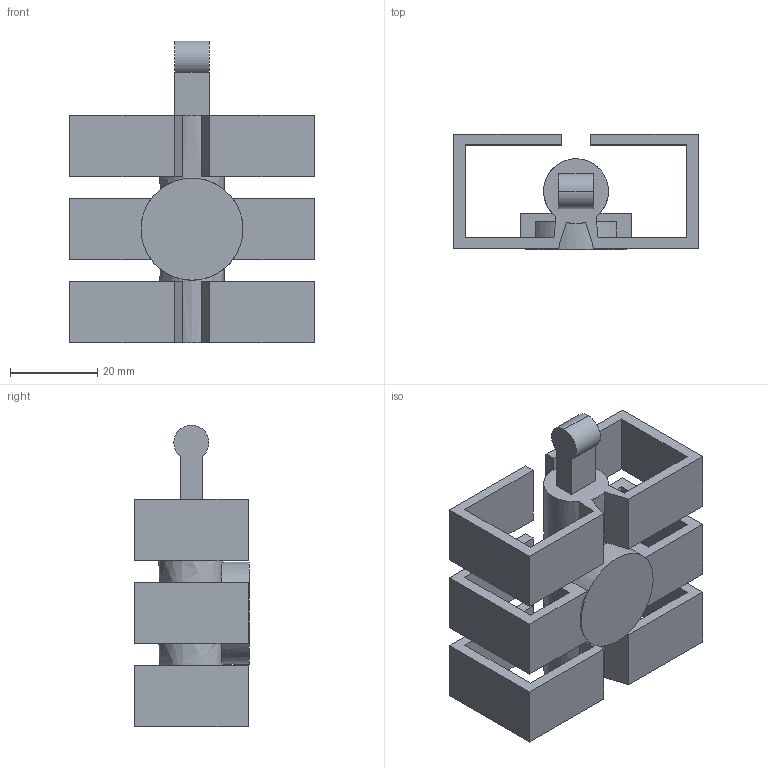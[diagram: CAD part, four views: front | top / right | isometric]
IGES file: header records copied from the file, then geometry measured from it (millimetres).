
Start section: Data from Parasolid IGES Translator 20.0.26, Copyright(c) 2006 Siemens P LM Software. All Rights Reserved.
Global section: file name: 9309815.igs; native system: By Siemens PLM Incorporated; preprocessor: XPlus GENERIC/IGES 20.0.26; author: Noname; organization: Noname; date: 20211203.152331; units: millimetre
Bounding box: 55.99 x 26.3 x 69 mm (x, y, z)
Surface area: 18242.4 mm2 (no closed solid volume)
Topology: 0 solids, 0 shells, 77 faces, 438 edges, 437 vertices
Faces by surface type: extrusion 73, revolution 4
